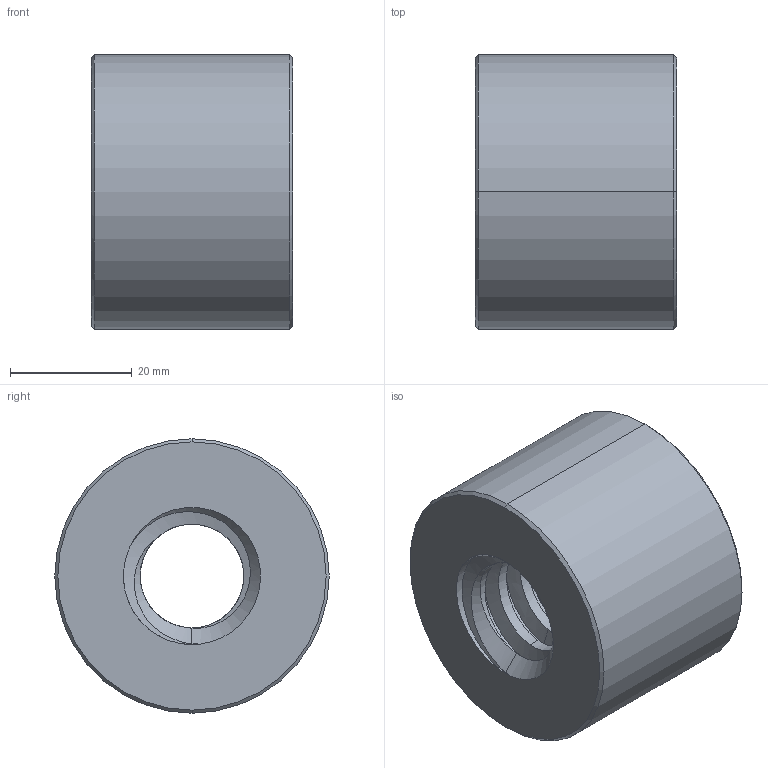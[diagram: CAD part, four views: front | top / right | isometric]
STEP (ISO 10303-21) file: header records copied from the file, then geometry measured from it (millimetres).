
FILE_DESCRIPTION((''),'2;1');
FILE_NAME('711-022-1100_PRT','2024-03-23T',('Brieden'),('ib-brieden'),'PRO/ENGINEER BY PARAMETRIC TECHNOLOGY CORPORATION, 2010160','PRO/ENGINEER BY PARAMETRIC TECHNOLOGY CORPORATION, 2010160','');
FILE_SCHEMA(('AUTOMOTIVE_DESIGN { 1 0 10303 214 1 1 1 1 }'));
Length unit declared in the file: millimetre
Products named in the file (1): 711-022-1100_PRT
Bounding box: 33 x 45 x 45 mm (x, y, z)
Volume: 42048.8 mm3; surface area: 10700.7 mm2
Topology: 1 solids, 1 shells, 31 faces, 75 edges, 46 vertices
Faces by surface type: cylinder 12, bspline 9, cone 8, plane 2
Entity records: 3366 total; most frequent: CARTESIAN_POINT 2674, ORIENTED_EDGE 150, DIRECTION 93, EDGE_CURVE 75, VERTEX_POINT 46, B_SPLINE_CURVE_WITH_KNOTS 39, AXIS2_PLACEMENT_3D 35, EDGE_LOOP 33
